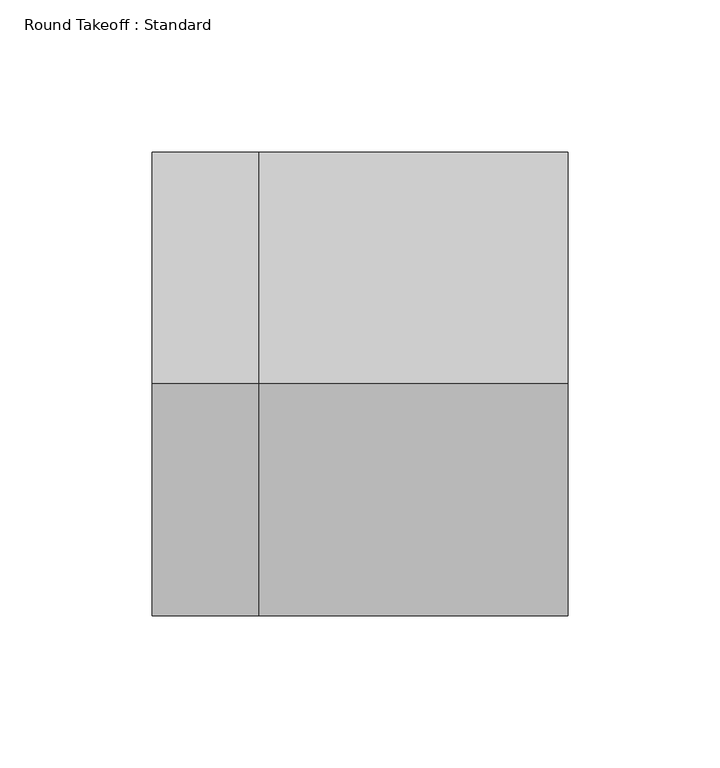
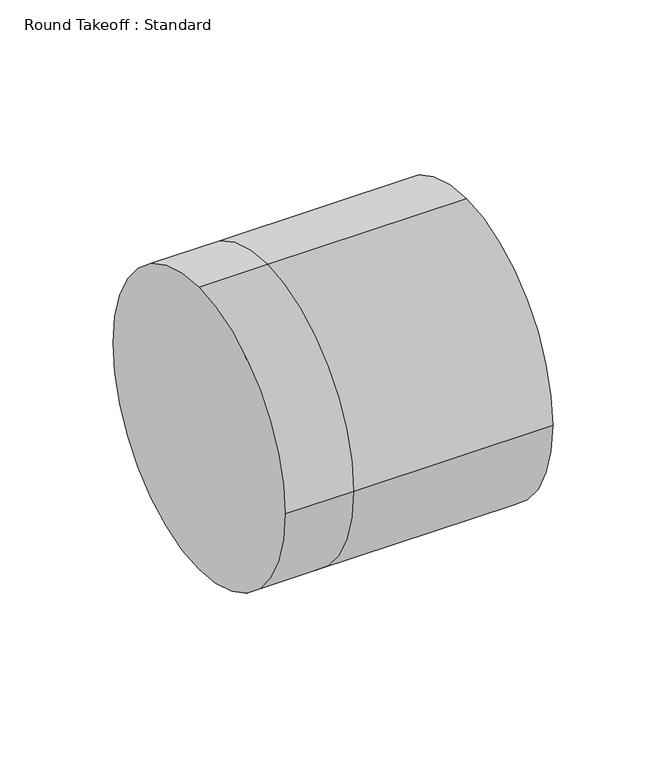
"""IFC4 building model written with IfcOpenShell, lengths in millimetres: duct fitting geometry, Round Takeoff : Standard."""

import ifcopenshell
import ifcopenshell.guid

model = None  # the IFC model being written
_history = None  # IfcOwnerHistory: only IFC2X3 demands one
_inside = {}  # id of a spatial element -> (the spatial element, [elements in it])
_under = {}  # id of a project, library or spatial element -> (it, [spatial elements below it])
_declared = {}  # id of a project -> (the project, [libraries it declares])
_typed = {}  # id of a type object -> (the type object, [elements of that type])
_made_of = {}  # id of a material, layer set ... -> (it, [elements and type objects made of it])


def new_model(schema):
    """Start an empty IFC model of exactly this schema.

    Asked for "IFC4X3", IfcOpenShell would pick the latest addendum, in which some entities
    have other attributes; the version numbers below select the first issue.
    IFC2X3 requires an IfcOwnerHistory on every rooted entity: one is made here for all.
    """
    global model, _history
    if schema == "IFC4X3":
        model = ifcopenshell.file(schema_version=(4, 3, 0, 0))
    else:
        model = ifcopenshell.file(schema=schema)
    _inside.clear()
    _under.clear()
    _declared.clear()
    _typed.clear()
    _made_of.clear()
    _history = None
    if model.schema == "IFC2X3":
        org = make("IfcOrganization", Name="unknown")
        user = make(
            "IfcPersonAndOrganization",
            ThePerson=make("IfcPerson", FamilyName="unknown"),
            TheOrganization=org,
        )
        app = make(
            "IfcApplication",
            ApplicationDeveloper=org,
            Version="unknown",
            ApplicationFullName="unknown",
            ApplicationIdentifier="unknown",
        )
        _history = make(
            "IfcOwnerHistory",
            OwningUser=user,
            OwningApplication=app,
            ChangeAction="ADDED",
            CreationDate=0,
        )
    return model


def make(cls, **values):
    """One entity of the class cls with the attributes given. An attribute that is None is left unset."""
    return model.create_entity(
        cls, **{name: value for name, value in values.items() if value is not None}
    )


def rooted(cls, **values):
    """An entity with a GlobalId (a new one), such as an element, a storey or a relation."""
    return make(cls, GlobalId=ifcopenshell.guid.new(), OwnerHistory=_history, **values)


def si_unit(unit_type, name, prefix=None):
    """IfcSIUnit, for example si_unit("LENGTHUNIT", "METRE", prefix="MILLI")."""
    return make("IfcSIUnit", UnitType=unit_type, Prefix=prefix, Name=name)


def assignment(units):
    """IfcUnitAssignment: the units of a project."""
    return None if units is None else make("IfcUnitAssignment", Units=units)


def point(xyz):
    """IfcCartesianPoint."""
    return None if xyz is None else make("IfcCartesianPoint", Coordinates=xyz)


def direction(xyz):
    """IfcDirection."""
    return None if xyz is None else make("IfcDirection", DirectionRatios=xyz)


def frame(location, z_axis=None, x_axis=None):
    """IfcAxis2Placement3D, a coordinate frame: its origin and axes. An axis left out is left unset."""
    return make(
        "IfcAxis2Placement3D",
        Location=point(location),
        Axis=direction(z_axis),
        RefDirection=direction(x_axis),
    )


def origin():
    """The frame at (0, 0, 0) with its axes left unset."""
    return frame((0.0, 0.0, 0.0))


def place(relative_to, where):
    """IfcLocalPlacement: puts the frame where relative to a parent placement (None: the world)."""
    return make(
        "IfcLocalPlacement", PlacementRelTo=relative_to, RelativePlacement=where
    )


def context(
    kind, dimensions, precision=None, world=None, true_north=None, identifier=None
):
    """IfcGeometricRepresentationContext, for example the 3D "Model" context."""
    return make(
        "IfcGeometricRepresentationContext",
        ContextIdentifier=identifier,
        ContextType=kind,
        CoordinateSpaceDimension=dimensions,
        Precision=precision,
        WorldCoordinateSystem=world,
        TrueNorth=true_north,
    )


def project(units=None, contexts=None):
    """IfcProject with its units and contexts."""
    return rooted(
        "IfcProject",
        Name="project",
        RepresentationContexts=contexts,
        UnitsInContext=assignment(units),
    )


def spatial(cls, under=None, at=None, **own):
    """A site, building, storey or space (cls), placed at a placement, below another one or the project."""
    s = rooted(cls, ObjectPlacement=at, **own)
    if under is not None:
        _under.setdefault(under.id(), (under, []))[1].append(s)
    return s


def circle_curve(where, radius):
    """IfcCircle in the frame where."""
    return make("IfcCircle", Position=where, Radius=radius)


def shape(context_of_items, identifier, shape_type, items):
    """IfcShapeRepresentation: the items that make up one representation, for example the "Body"."""
    return make(
        "IfcShapeRepresentation",
        ContextOfItems=context_of_items,
        RepresentationIdentifier=identifier,
        RepresentationType=shape_type,
        Items=items,
    )


def source(mapping_origin, context_of_items, identifier, shape_type, items):
    """IfcRepresentationMap: a shape defined once, which mapped items show again and again."""
    return make(
        "IfcRepresentationMap",
        MappingOrigin=mapping_origin,
        MappedRepresentation=shape(context_of_items, identifier, shape_type, items),
    )


def transform(
    local_origin,
    x_axis=None,
    y_axis=None,
    z_axis=None,
    scale=None,
    scale2=None,
    scale3=None,
    uniform=True,
):
    """IfcCartesianTransformationOperator3D, or its non-uniform kind. x_axis, y_axis, z_axis: its Axis1, 2, 3."""
    if uniform:
        return make(
            "IfcCartesianTransformationOperator3D",
            Axis1=direction(x_axis),
            Axis2=direction(y_axis),
            LocalOrigin=point(local_origin),
            Scale=scale,
            Axis3=direction(z_axis),
        )
    return make(
        "IfcCartesianTransformationOperator3DnonUniform",
        Axis1=direction(x_axis),
        Axis2=direction(y_axis),
        LocalOrigin=point(local_origin),
        Scale=scale,
        Axis3=direction(z_axis),
        Scale2=scale2,
        Scale3=scale3,
    )


def mapped(mapping_source, mapping_target):
    """IfcMappedItem: shows the shape of a source again, moved by a transform."""
    return make(
        "IfcMappedItem", MappingSource=mapping_source, MappingTarget=mapping_target
    )


def made_of(thing, what):
    """Note that an element or type object is made of a material, layer set ...; save() writes the relation."""
    if what is not None:
        _made_of.setdefault(what.id(), (what, []))[1].append(thing)
    return thing


def element(
    cls,
    number,
    at=None,
    inside=None,
    cuts=None,
    type_object=None,
    material=None,
    context=None,
    identifier="Body",
    shape_type=None,
    held_by="IfcProductDefinitionShape",
    body=None,
    shapes=None,
    **own,
):
    """One element of the class cls, such as IfcWall. Its Tag is "e" and its number.

    at: its placement. inside: the storey or other place that contains it. cuts: it is an
    opening in that element (IfcRelVoidsElement). A single representation is given by context,
    identifier, shape_type and body (its items); several are given by shapes. held_by: the class
    of the entity that holds the representations. save() writes the other relations.
    """
    e = rooted(cls, Tag="e%d" % number, ObjectPlacement=at, **own)
    if body is not None:
        shapes = [shape(context, identifier, shape_type, body)]
    if shapes is not None:
        e.Representation = make(held_by, Representations=shapes)
    if inside is not None:
        _inside.setdefault(inside.id(), (inside, []))[1].append(e)
    if cuts is not None:
        rooted(
            "IfcRelVoidsElement", RelatingBuildingElement=cuts, RelatedOpeningElement=e
        )
    if type_object is not None:
        _typed.setdefault(type_object.id(), (type_object, []))[1].append(e)
    return made_of(e, material)


def aggregate(whole, parts):
    """IfcRelAggregates: a whole, such as a stair, and the parts it consists of."""
    return rooted("IfcRelAggregates", RelatingObject=whole, RelatedObjects=parts)


def save(model, path):
    """Write the relations noted so far, then the file.

    IfcRelAggregates (storeys below a building ...), IfcRelContainedInSpatialStructure (elements
    in a storey), IfcRelDefinesByType, IfcRelAssociatesMaterial and IfcRelDeclares: one each for
    every whole, place, type object, material and project.
    """
    for whole, parts in _under.values():
        aggregate(whole, parts)
    for where, things in _inside.values():
        rooted(
            "IfcRelContainedInSpatialStructure",
            RelatedElements=things,
            RelatingStructure=where,
        )
    for kind, things in _typed.values():
        rooted("IfcRelDefinesByType", RelatedObjects=things, RelatingType=kind)
    for what, things in _made_of.values():
        rooted("IfcRelAssociatesMaterial", RelatedObjects=things, RelatingMaterial=what)
    for by, libraries in _declared.values():
        rooted("IfcRelDeclares", RelatingContext=by, RelatedDefinitions=libraries)
    model.write(path)


def plane_surface(at):
    """IfcPlane: the flat surface through the origin of the frame at, square to its z axis."""
    return make("IfcPlane", Position=at)


def cylinder_surface(at, radius):
    """IfcCylindricalSurface: all points at the distance radius from the z axis of the frame at."""
    return make("IfcCylindricalSurface", Position=at, Radius=radius)


def advanced_brep(points, edges, surfaces, faces):
    """IfcAdvancedBrep: a solid bounded by faces that lie on surfaces and meet in shared edges.

    An edge is (start, end): straight between two places in points (the first is 0);
    or (start, end, curve); or (start, end, curve, False) where it runs against its curve.
    A face is (place in surfaces, loops), or (place, loops, False) where it looks against
    its surface's normal. A loop lists edges by number (the first is 1), with a minus sign
    where the edge is run from its end to its start. The first loop is the outer one.
    """
    corners = [point(p) for p in points]
    vertices = [make("IfcVertexPoint", VertexGeometry=c) for c in corners]
    made = []
    for start, end, *more in edges:
        made.append(
            make(
                "IfcEdgeCurve",
                EdgeStart=vertices[start],
                EdgeEnd=vertices[end],
                EdgeGeometry=more[0] if more else make("IfcPolyline", Points=[corners[start], corners[end]]),
                SameSense=more[1] if len(more) > 1 else True,
            )
        )
    hull = []
    for where, loops, *sense in faces:
        bounds = []
        for j, loop in enumerate(loops):
            ring = [make("IfcOrientedEdge", EdgeElement=made[abs(k) - 1], Orientation=k > 0) for k in loop]
            bounds.append(
                make(
                    "IfcFaceOuterBound" if j == 0 else "IfcFaceBound",
                    Bound=make("IfcEdgeLoop", EdgeList=ring),
                    Orientation=True,
                )
            )
        hull.append(make("IfcAdvancedFace", Bounds=bounds, FaceSurface=surfaces[where], SameSense=sense[0] if sense else True))
    return make("IfcAdvancedBrep", Outer=make("IfcClosedShell", CfsFaces=hull))


def round_takeoff_standard_533576aa(model_context):
    return source(origin(), model_context, "Body", "AdvancedBrep", [
        advanced_brep(
        [(101.6, 0.0, 76.2), (101.6, -76.2, 0.0), (101.6, 0.0, -76.2), (101.6, 76.2, 0.0), (0.0, 0.0, 76.2), (0.0, -76.2, 0.0), (0.0, 0.0, -76.2), (0.0, 76.2, 0.0), (-35.2018101, 0.0, 76.2), (-35.2018101, 76.2, 0.0), (-35.2018101, 0.0, -76.2), (-35.2018101, -76.2, 0.0)],
        [
            (0, 1, circle_curve(frame((101.6, 0.0, 0.0), z_axis=(1.0, 0.0, 0.0), x_axis=(0.0, -1.0, 0.0)), 76.2)),
            (1, 2, circle_curve(frame((101.6, 0.0, 0.0), z_axis=(1.0, 0.0, 0.0), x_axis=(0.0, -1.0, 0.0)), 76.2)),
            (2, 3, circle_curve(frame((101.6, 0.0, 0.0), z_axis=(1.0, 0.0, 0.0), x_axis=(0.0, -1.0, 0.0)), 76.2)),
            (3, 0, circle_curve(frame((101.6, 0.0, 0.0), z_axis=(1.0, 0.0, 0.0), x_axis=(0.0, -1.0, 0.0)), 76.2)),
            (0, 4),
            (4, 5, circle_curve(frame((0.0, 0.0, 0.0), z_axis=(1.0, 0.0, 0.0), x_axis=(0.0, -1.0, 0.0)), 76.2)),
            (5, 1),
            (5, 6, circle_curve(frame((0.0, 0.0, 0.0), z_axis=(1.0, 0.0, 0.0), x_axis=(0.0, -1.0, 0.0)), 76.2)),
            (6, 2),
            (6, 7, circle_curve(frame((0.0, 0.0, 0.0), z_axis=(1.0, 0.0, 0.0), x_axis=(0.0, -1.0, 0.0)), 76.2)),
            (7, 3),
            (7, 4, circle_curve(frame((0.0, 0.0, 0.0), z_axis=(1.0, 0.0, 0.0), x_axis=(0.0, -1.0, 0.0)), 76.2)),
            (8, 9, circle_curve(frame((-35.2018101, 0.0, 0.0), z_axis=(-1.0, 0.0, 0.0), x_axis=(0.0, -1.0, 0.0)), 76.2)),
            (9, 10, circle_curve(frame((-35.2018101, 0.0, 0.0), z_axis=(-1.0, 0.0, 0.0), x_axis=(0.0, -1.0, 0.0)), 76.2)),
            (10, 11, circle_curve(frame((-35.2018101, 0.0, 0.0), z_axis=(-1.0, 0.0, 0.0), x_axis=(0.0, -1.0, 0.0)), 76.2)),
            (11, 8, circle_curve(frame((-35.2018101, 0.0, 0.0), z_axis=(-1.0, 0.0, 0.0), x_axis=(0.0, -1.0, 0.0)), 76.2)),
            (11, 5),
            (4, 8),
            (10, 6),
            (9, 7),
        ],
        [
            plane_surface(frame((101.6, 0.0, 0.0), z_axis=(1.0, 0.0, 0.0), x_axis=(0.0, 0.0, 1.0))),
            cylinder_surface(frame((0.0, 0.0, 0.0), z_axis=(-1.0, 0.0, 0.0), x_axis=(0.0, -1.0, 0.0)), 76.2),
            plane_surface(frame((-35.2018101, 0.0, 0.0), z_axis=(-1.0, 0.0, 0.0), x_axis=(0.0, 0.0, 1.0))),
            cylinder_surface(frame((-35.2018101, 0.0, 0.0), z_axis=(-1.0, 0.0, 0.0), x_axis=(0.0, -1.0, 0.0)), 76.2),
        ],
        [
            (0, [[1, 2, 3, 4]]),
            (1, [[5, 6, 7, -1]]),
            (1, [[-7, 8, 9, -2]]),
            (1, [[-9, 10, 11, -3]]),
            (1, [[-11, 12, -5, -4]]),
            (2, [[13, 14, 15, 16]]),
            (3, [[17, -6, 18, -16]]),
            (3, [[19, -8, -17, -15]]),
            (3, [[20, -10, -19, -14]]),
            (3, [[-18, -12, -20, -13]]),
        ],
    ),
    ])


if __name__ == "__main__":
    model = new_model("IFC4")
    model_context = context("Model", 3, world=origin())
    ifc_project = project(units=[si_unit("LENGTHUNIT", "METRE", prefix="MILLI")], contexts=[model_context])
    site = spatial("IfcSite", under=ifc_project)
    building = spatial("IfcBuilding", under=site)
    placement = place(None, origin())
    round_takeoff_standard_shape = round_takeoff_standard_533576aa(model_context)
    element("IfcDuctFitting", 1, ObjectType="Round Takeoff : Standard", at=placement, inside=building, context=model_context, shape_type="MappedRepresentation", body=[
        mapped(round_takeoff_standard_shape, transform((0.0, 0.0, 0.0), x_axis=(1.0, 0.0, 0.0), y_axis=(0.0, 1.0, 0.0), z_axis=(0.0, 0.0, 1.0))),
    ])
    save(model, "model.ifc")
